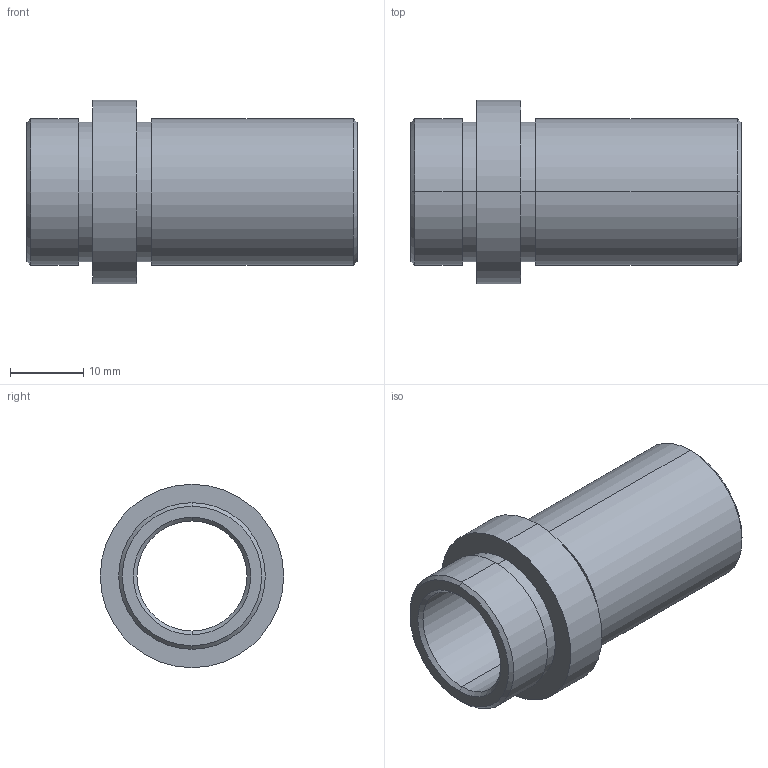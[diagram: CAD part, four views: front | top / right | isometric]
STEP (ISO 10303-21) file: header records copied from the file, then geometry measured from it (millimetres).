
FILE_DESCRIPTION( ( 'STEP AP203' ), '1' );
FILE_NAME( 'C:/Projects/D21 - 15x36.step', '2002-12-31T22:31:34', ( ' ' ), ( ' ' ), 'XStep 1.0', ' ', ' ' );
FILE_SCHEMA( ( 'CONFIG_CONTROL_DESIGN' ) );
Length unit declared in the file: metre
Products named in the file (1): 1
Bounding box: 45 x 25 x 25 mm (x, y, z)
Volume: 7095.3 mm3; surface area: 5716.1 mm2
Topology: 1 solids, 1 shells, 26 faces, 52 edges, 32 vertices
Faces by surface type: revolution 20, bspline 6
Entity records: 773 total; most frequent: CARTESIAN_POINT 169, DIRECTION 106, ORIENTED_EDGE 104, EDGE_CURVE 52, AXIS2_PLACEMENT_3D 33, EDGE_LOOP 32, VERTEX_POINT 32, CIRCLE 32
